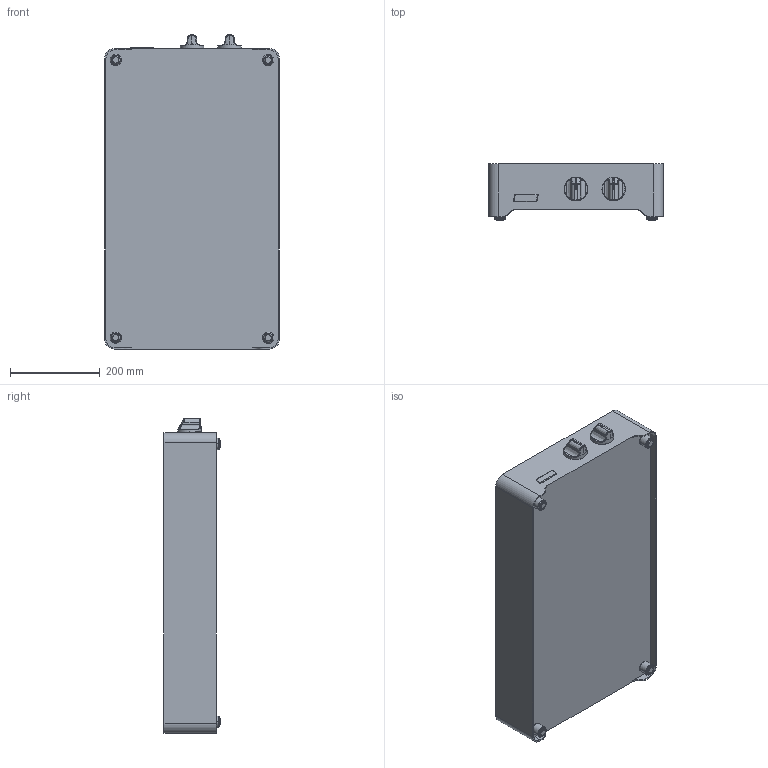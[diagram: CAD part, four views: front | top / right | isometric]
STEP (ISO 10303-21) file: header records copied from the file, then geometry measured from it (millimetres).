
FILE_DESCRIPTION (( 'STEP AP214' ), '1' );
FILE_NAME ('SINAtwin.STEP', '2015-08-05T09:30:34', ( 'T. Weiss' ), ( 'Menusystem AG' ), 'SwSTEP 2.0', 'SolidWorks 2012', '' );
FILE_SCHEMA (( 'AUTOMOTIVE_DESIGN' ));
Products named in the file (1): SINAtwin
Bounding box: 390 x 124.9 x 700.6 mm (x, y, z)
Volume: 26553057.5 mm3; surface area: 823508.3 mm2
Topology: 1 solids, 8 shells, 395 faces, 1024 edges, 668 vertices
Faces by surface type: bspline 164, plane 111, cylinder 110, cone 10
Entity records: 75139 total; most frequent: CARTESIAN_POINT 67113, ORIENTED_EDGE 2040, EDGE_CURVE 1020, DIRECTION 1010, VERTEX_POINT 668, B_SPLINE_CURVE_WITH_KNOTS 606, EDGE_LOOP 422, ADVANCED_FACE 395
